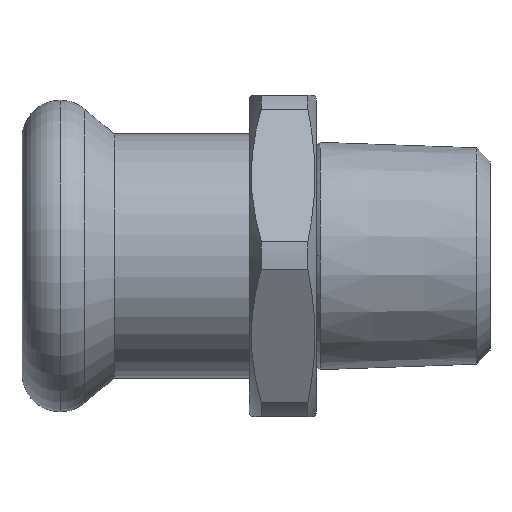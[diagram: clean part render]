
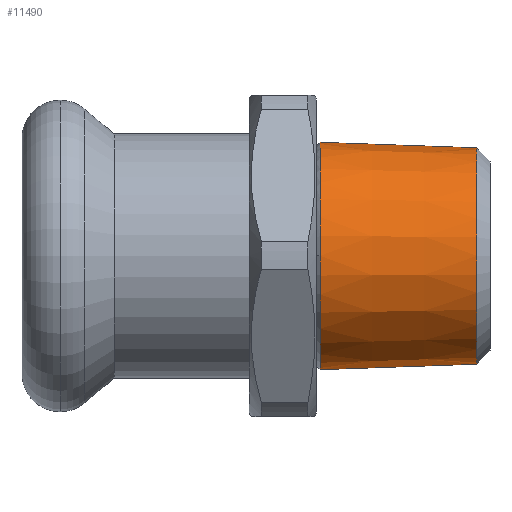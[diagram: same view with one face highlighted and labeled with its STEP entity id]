
A CAD part, top view. The second image highlights one B-rep face of the part: STEP entity #11490.
In plain terms, the highlighted conical face has half-angle 2 degrees and reference radius 8.5 mm.
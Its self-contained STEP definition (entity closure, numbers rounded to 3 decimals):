
#460=CARTESIAN_POINT('',(-57.57,13.148,
0.));
#470=VERTEX_POINT('',#460);
#500=CARTESIAN_POINT('',(-57.57,21.24,
0.));
#510=DIRECTION('',(-1.,0.,0.));
#520=DIRECTION('',(0.,-1.,0.));
#530=AXIS2_PLACEMENT_3D('',#500,#510,#520);
#540=CIRCLE('',#530,8.091);
#550=CARTESIAN_POINT('',(-57.57,29.331,
0.));
#560=VERTEX_POINT('',#550);
#11080=EDGE_CURVE('',#560,#470,#540,.T.);
#11140=CARTESIAN_POINT('',(-69.273,21.24,
0.));
#11150=DIRECTION('',(-1.,0.,0.));
#11160=DIRECTION('',(0.,1.,0.));
#11170=AXIS2_PLACEMENT_3D('',#11140,#11150,#11160);
#11180=CONICAL_SURFACE('',#11170,8.5,0.035);
#11190=CARTESIAN_POINT('',(-69.273,21.24,
0.));
#11200=DIRECTION('',(1.,0.,0.));
#11210=DIRECTION('',(0.,1.,0.));
#11220=AXIS2_PLACEMENT_3D('',#11190,#11200,#11210);
#11230=CIRCLE('',#11220,8.5);
#11240=CARTESIAN_POINT('',(-69.273,12.74,
0.));
#11250=VERTEX_POINT('',#11240);
#11260=CARTESIAN_POINT('',(-69.273,21.24,
-8.5));
#11270=VERTEX_POINT('',#11260);
#11280=EDGE_CURVE('',#11250,#11270,#11230,.T.);
#11290=ORIENTED_EDGE('',*,*,#11280,.T.);
#11300=CARTESIAN_POINT('',(-69.273,12.74,
0.));
#11310=DIRECTION('',(-0.999,-0.035,
0.));
#11320=VECTOR('',#11310,243.557);
#11330=LINE('',#11300,#11320);
#11340=EDGE_CURVE('',#470,#11250,#11330,.T.);
#11350=ORIENTED_EDGE('',*,*,#11340,.T.);
#11360=ORIENTED_EDGE('',*,*,#11080,.T.);
#11370=CARTESIAN_POINT('',(-69.273,29.74,
0.));
#11380=DIRECTION('',(-0.999,0.035,
0.));
#11390=VECTOR('',#11380,243.557);
#11400=LINE('',#11370,#11390);
#11410=CARTESIAN_POINT('',(-69.273,29.74,
0.));
#11420=VERTEX_POINT('',#11410);
#11430=EDGE_CURVE('',#560,#11420,#11400,.T.);
#11440=ORIENTED_EDGE('',*,*,#11430,.F.);
#11450=EDGE_CURVE('',#11270,#11420,#11230,.T.);
#11460=ORIENTED_EDGE('',*,*,#11450,.T.);
#11470=EDGE_LOOP('',(#11460,#11440,#11360,#11350,#11290));
#11480=FACE_OUTER_BOUND('',#11470,.T.);
#11490=ADVANCED_FACE('',(#11480),#11180,.T.);
